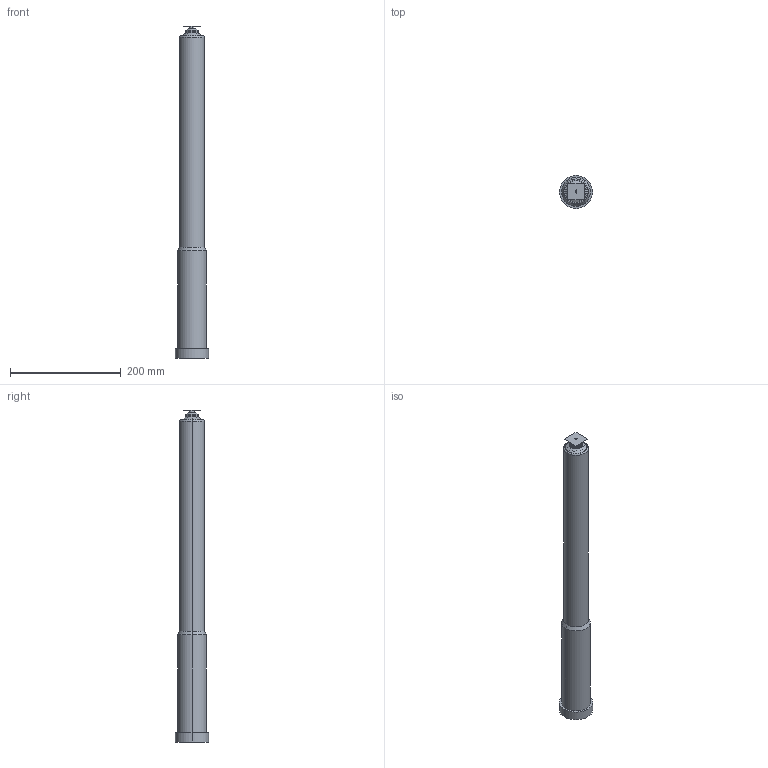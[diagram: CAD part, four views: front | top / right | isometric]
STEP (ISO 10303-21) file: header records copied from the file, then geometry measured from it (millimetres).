
FILE_DESCRIPTION (( 'STEP AP214' ), '1' );
FILE_NAME ('16E-06-600-TTW.STEP', '2021-07-14T13:39:14', ( '' ), ( '' ), 'SwSTEP 2.0', 'SolidWorks 2018', '' );
FILE_SCHEMA (( 'AUTOMOTIVE_DESIGN' ));
Length unit declared in the file: millimetre
Products named in the file (5): 16E-06-600-TTW; cutout_16E-06-600-TTW; nozzle_16E-06-600-TTW; 16nt-ttw-01_dummy_16NT-TTW-01; 16nt-ttw-##-01_pdasm_16NT-TTW-01 (H3.0)_(16E-06)
Assembly tree (4 placements, depth 3):
  16E-06-600-TTW
    16nt-ttw-##-01_pdasm_16NT-TTW-01 (H3.0)_(16E-06)
      16nt-ttw-01_dummy_16NT-TTW-01
    nozzle_16E-06-600-TTW
    cutout_16E-06-600-TTW
Bounding box: 60 x 60 x 600 mm (x, y, z)
Volume: 1062017.6 mm3; surface area: 317583.5 mm2
Topology: 2 solids, 5 shells, 548 faces, 1474 edges, 894 vertices
Faces by surface type: cylinder 202, plane 181, torus 92, cone 69, sphere 4
Entity records: 20370 total; most frequent: CARTESIAN_POINT 4182, DIRECTION 3228, ORIENTED_EDGE 2944, EDGE_CURVE 1474, AXIS2_PLACEMENT_3D 1312, VERTEX_POINT 894, CIRCLE 755, LINE 604
